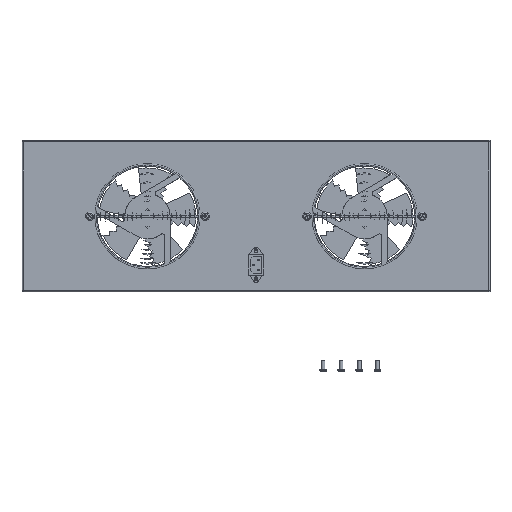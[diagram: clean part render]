
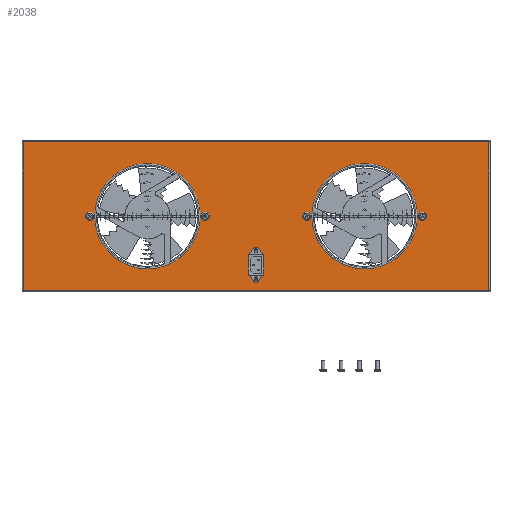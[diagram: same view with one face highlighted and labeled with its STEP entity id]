
A CAD part, top view. The second image highlights one B-rep face of the part: STEP entity #2038.
In plain terms, the highlighted planar face has unit normal (0, 0, 1).
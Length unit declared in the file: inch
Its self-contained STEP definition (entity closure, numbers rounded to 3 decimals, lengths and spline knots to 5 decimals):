
#1078=CARTESIAN_POINT('',(-12.8585,-4.1095,0.047));
#1079=VERTEX_POINT('',#1078);
#1158=CARTESIAN_POINT('',(-12.8585,4.1095,0.047));
#1159=VERTEX_POINT('',#1158);
#1192=CARTESIAN_POINT('',(-12.8585,4.1095,0.047));
#1193=DIRECTION('',(0.0,-1.0,0.0));
#1194=VECTOR('',#1193,8.219);
#1195=LINE('',#1192,#1194);
#1196=EDGE_CURVE('',#1159,#1079,#1195,.T.);
#1334=CARTESIAN_POINT('',(12.8585,4.1095,0.047));
#1335=VERTEX_POINT('',#1334);
#1336=CARTESIAN_POINT('',(12.8585,4.1095,0.047));
#1337=DIRECTION('',(-1.0,0.0,0.0));
#1338=VECTOR('',#1337,25.717);
#1339=LINE('',#1336,#1338);
#1340=EDGE_CURVE('',#1335,#1159,#1339,.T.);
#1694=CARTESIAN_POINT('',(12.8585,-4.1095,0.047));
#1695=VERTEX_POINT('',#1694);
#1726=CARTESIAN_POINT('',(12.8585,-4.1095,0.047));
#1727=DIRECTION('',(0.0,1.0,0.0));
#1728=VECTOR('',#1727,8.219);
#1729=LINE('',#1726,#1728);
#1730=EDGE_CURVE('',#1695,#1335,#1729,.T.);
#1848=CARTESIAN_POINT('',(-12.8585,-4.1095,0.047));
#1849=DIRECTION('',(1.0,0.0,0.0));
#1850=VECTOR('',#1849,25.717);
#1851=LINE('',#1848,#1850);
#1852=EDGE_CURVE('',#1079,#1695,#1851,.T.);
#1905=CARTESIAN_POINT('',(0.0,0.0,0.047));
#1906=DIRECTION('',(0.0,0.0,1.0));
#1907=DIRECTION('',(1.0,0.0,0.0));
#1908=AXIS2_PLACEMENT_3D('',#1905,#1906,#1907);
#1909=PLANE('',#1908);
#1910=ORIENTED_EDGE('',*,*,#1196,.T.);
#1911=ORIENTED_EDGE('',*,*,#1852,.T.);
#1912=ORIENTED_EDGE('',*,*,#1730,.T.);
#1913=ORIENTED_EDGE('',*,*,#1340,.T.);
#1914=EDGE_LOOP('',(#1910,#1911,#1912,#1913));
#1915=FACE_OUTER_BOUND('',#1914,.T.);
#1916=CARTESIAN_POINT('',(-2.7165,0.,0.047));
#1917=VERTEX_POINT('',#1916);
#1918=CARTESIAN_POINT('',(-2.811,0.,0.047));
#1919=DIRECTION('',(0.0,0.0,-1.0));
#1920=DIRECTION('',(-1.0,0.0,0.0));
#1921=AXIS2_PLACEMENT_3D('',#1918,#1919,#1920);
#1922=CIRCLE('',#1921,0.0945);
#1923=EDGE_CURVE('',#1917,#1917,#1922,.T.);
#1924=ORIENTED_EDGE('',*,*,#1923,.T.);
#1925=EDGE_LOOP('',(#1924));
#1926=FACE_BOUND('',#1925,.T.);
#1927=CARTESIAN_POINT('',(-9.0945,0.,0.047));
#1928=VERTEX_POINT('',#1927);
#1929=CARTESIAN_POINT('',(-9.189,0.,0.047));
#1930=DIRECTION('',(0.0,0.0,-1.0));
#1931=DIRECTION('',(-1.0,0.0,0.0));
#1932=AXIS2_PLACEMENT_3D('',#1929,#1930,#1931);
#1933=CIRCLE('',#1932,0.0945);
#1934=EDGE_CURVE('',#1928,#1928,#1933,.T.);
#1935=ORIENTED_EDGE('',*,*,#1934,.T.);
#1936=EDGE_LOOP('',(#1935));
#1937=FACE_BOUND('',#1936,.T.);
#1938=CARTESIAN_POINT('',(2.9055,0.,0.047));
#1939=VERTEX_POINT('',#1938);
#1940=CARTESIAN_POINT('',(2.811,0.0,0.047));
#1941=DIRECTION('',(0.0,0.0,-1.0));
#1942=DIRECTION('',(-1.0,0.0,0.0));
#1943=AXIS2_PLACEMENT_3D('',#1940,#1941,#1942);
#1944=CIRCLE('',#1943,0.0945);
#1945=EDGE_CURVE('',#1939,#1939,#1944,.T.);
#1946=ORIENTED_EDGE('',*,*,#1945,.T.);
#1947=EDGE_LOOP('',(#1946));
#1948=FACE_BOUND('',#1947,.T.);
#1949=CARTESIAN_POINT('',(9.2835,0.,0.047));
#1950=VERTEX_POINT('',#1949);
#1951=CARTESIAN_POINT('',(9.189,0.,0.047));
#1952=DIRECTION('',(0.0,0.0,-1.0));
#1953=DIRECTION('',(-1.0,0.0,0.0));
#1954=AXIS2_PLACEMENT_3D('',#1951,#1952,#1953);
#1955=CIRCLE('',#1954,0.0945);
#1956=EDGE_CURVE('',#1950,#1950,#1955,.T.);
#1957=ORIENTED_EDGE('',*,*,#1956,.T.);
#1958=EDGE_LOOP('',(#1957));
#1959=FACE_BOUND('',#1958,.T.);
#1960=CARTESIAN_POINT('',(-3.125,0.,0.047));
#1961=VERTEX_POINT('',#1960);
#1962=CARTESIAN_POINT('',(-6.0,0.,0.047));
#1963=DIRECTION('',(0.0,0.0,-1.0));
#1964=DIRECTION('',(-1.0,0.0,0.0));
#1965=AXIS2_PLACEMENT_3D('',#1962,#1963,#1964);
#1966=CIRCLE('',#1965,2.875);
#1967=EDGE_CURVE('',#1961,#1961,#1966,.T.);
#1968=ORIENTED_EDGE('',*,*,#1967,.T.);
#1969=EDGE_LOOP('',(#1968));
#1970=FACE_BOUND('',#1969,.T.);
#1971=CARTESIAN_POINT('',(8.875,0.,0.047));
#1972=VERTEX_POINT('',#1971);
#1973=CARTESIAN_POINT('',(6.0,0.,0.047));
#1974=DIRECTION('',(0.0,0.0,-1.0));
#1975=DIRECTION('',(-1.0,0.0,0.0));
#1976=AXIS2_PLACEMENT_3D('',#1973,#1974,#1975);
#1977=CIRCLE('',#1976,2.875);
#1978=EDGE_CURVE('',#1972,#1972,#1977,.T.);
#1979=ORIENTED_EDGE('',*,*,#1978,.T.);
#1980=EDGE_LOOP('',(#1979));
#1981=FACE_BOUND('',#1980,.T.);
#1982=CARTESIAN_POINT('',(0.3875,-3.2215,0.047));
#1983=VERTEX_POINT('',#1982);
#1984=CARTESIAN_POINT('',(-0.3875,-3.2215,0.047));
#1985=VERTEX_POINT('',#1984);
#1986=CARTESIAN_POINT('',(0.3875,-3.2215,0.047));
#1987=DIRECTION('',(-1.0,0.0,0.0));
#1988=VECTOR('',#1987,0.775);
#1989=LINE('',#1986,#1988);
#1990=EDGE_CURVE('',#1983,#1985,#1989,.T.);
#1991=ORIENTED_EDGE('',*,*,#1990,.T.);
#1992=CARTESIAN_POINT('',(-0.3875,-2.1515,0.047));
#1993=VERTEX_POINT('',#1992);
#1994=CARTESIAN_POINT('',(-0.3875,-3.2215,0.047));
#1995=DIRECTION('',(0.0,1.0,0.0));
#1996=VECTOR('',#1995,1.07);
#1997=LINE('',#1994,#1996);
#1998=EDGE_CURVE('',#1985,#1993,#1997,.T.);
#1999=ORIENTED_EDGE('',*,*,#1998,.T.);
#2000=CARTESIAN_POINT('',(0.3875,-2.1515,0.047));
#2001=VERTEX_POINT('',#2000);
#2002=CARTESIAN_POINT('',(-0.3875,-2.1515,0.047));
#2003=DIRECTION('',(1.0,0.0,0.0));
#2004=VECTOR('',#2003,0.775);
#2005=LINE('',#2002,#2004);
#2006=EDGE_CURVE('',#1993,#2001,#2005,.T.);
#2007=ORIENTED_EDGE('',*,*,#2006,.T.);
#2008=CARTESIAN_POINT('',(0.3875,-2.1515,0.047));
#2009=DIRECTION('',(0.0,-1.0,0.0));
#2010=VECTOR('',#2009,1.07);
#2011=LINE('',#2008,#2010);
#2012=EDGE_CURVE('',#2001,#1983,#2011,.T.);
#2013=ORIENTED_EDGE('',*,*,#2012,.T.);
#2014=EDGE_LOOP('',(#1991,#1999,#2007,#2013));
#2015=FACE_BOUND('',#2014,.T.);
#2016=CARTESIAN_POINT('',(0.047,-3.4745,0.047));
#2017=VERTEX_POINT('',#2016);
#2018=CARTESIAN_POINT('',(0.0,-3.4745,0.047));
#2019=DIRECTION('',(0.0,0.0,-1.0));
#2020=DIRECTION('',(1.0,0.0,0.0));
#2021=AXIS2_PLACEMENT_3D('',#2018,#2019,#2020);
#2022=CIRCLE('',#2021,0.047);
#2023=EDGE_CURVE('',#2017,#2017,#2022,.T.);
#2024=ORIENTED_EDGE('',*,*,#2023,.T.);
#2025=EDGE_LOOP('',(#2024));
#2026=FACE_BOUND('',#2025,.T.);
#2027=CARTESIAN_POINT('',(0.047,-1.8985,0.047));
#2028=VERTEX_POINT('',#2027);
#2029=CARTESIAN_POINT('',(0.0,-1.8985,0.047));
#2030=DIRECTION('',(0.0,0.0,-1.0));
#2031=DIRECTION('',(1.0,0.0,0.0));
#2032=AXIS2_PLACEMENT_3D('',#2029,#2030,#2031);
#2033=CIRCLE('',#2032,0.047);
#2034=EDGE_CURVE('',#2028,#2028,#2033,.T.);
#2035=ORIENTED_EDGE('',*,*,#2034,.T.);
#2036=EDGE_LOOP('',(#2035));
#2037=FACE_BOUND('',#2036,.T.);
#2038=ADVANCED_FACE('',(#1915,#1926,#1937,#1948,#1959,#1970,#1981,#2015,#2026,#2037),#1909,.T.);
